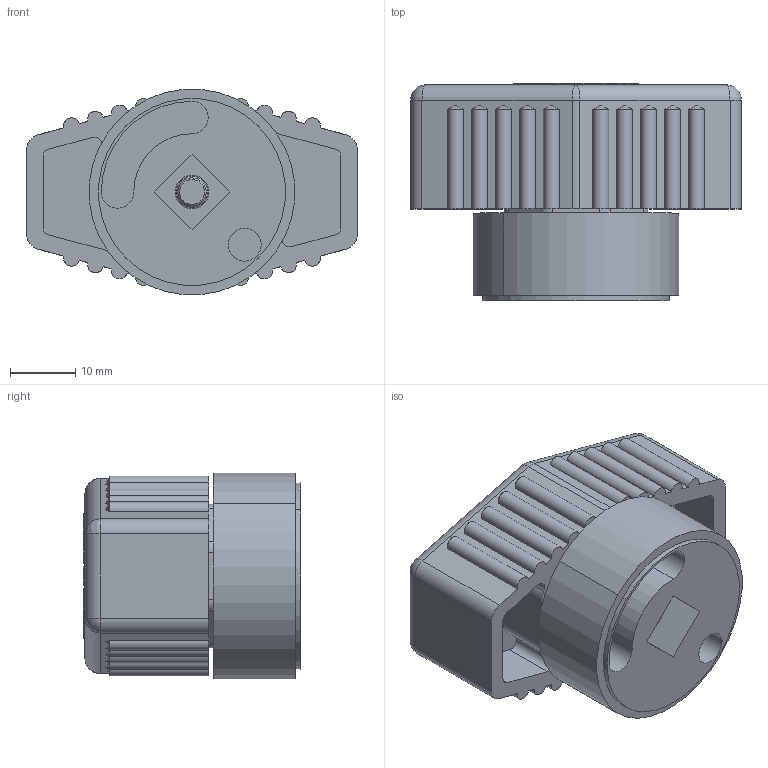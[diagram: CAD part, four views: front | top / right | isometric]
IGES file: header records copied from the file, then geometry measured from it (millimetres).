
Start section:  PTC IGES file: ilc62700408_short.igs
Global section: file name: ilc62700408_short.igs; native system: Pro/ENGINEER by Parametric Technology Corporation; preprocessor: 2007460; author: jdw; organization: Unknown; date: 20130619.082848; units: inch
Bounding box: 50.8 x 33.4 x 31.5 mm (x, y, z)
Surface area: 11848 mm2 (no closed solid volume)
Topology: 0 solids, 0 shells, 318 faces, 1730 edges, 1710 vertices
Faces by surface type: bspline 200, revolution 118
